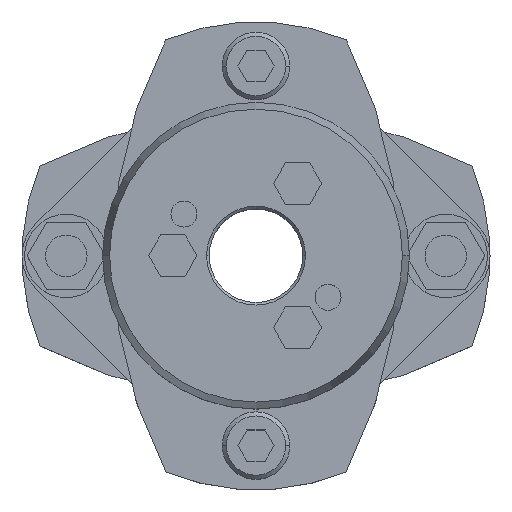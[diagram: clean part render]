
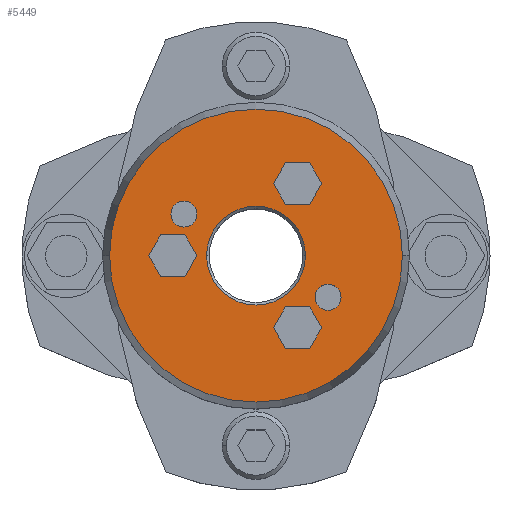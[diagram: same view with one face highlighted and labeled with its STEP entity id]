
A CAD part, top view. The second image highlights one B-rep face of the part: STEP entity #5449.
In plain terms, the highlighted planar face has unit normal (0, 0, 1).
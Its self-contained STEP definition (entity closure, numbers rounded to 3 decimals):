
#857=CARTESIAN_POINT('',(-9.5,0.,39.25));
#858=VERTEX_POINT('',#857);
#874=CARTESIAN_POINT('',(9.5,0.,39.25));
#875=VERTEX_POINT('',#874);
#882=CARTESIAN_POINT('',(0.,0.,39.25));
#883=DIRECTION('',(0.0,0.0,1.0));
#884=DIRECTION('',(-1.0,0.0,0.0));
#885=AXIS2_PLACEMENT_3D('',#882,#883,#884);
#886=CIRCLE('',#885,9.5);
#887=EDGE_CURVE('',#875,#858,#886,.T.);
#1045=CARTESIAN_POINT('',(28.16,0.,39.25));
#1046=VERTEX_POINT('',#1045);
#1053=CARTESIAN_POINT('',(-28.16,0.,39.25));
#1054=VERTEX_POINT('',#1053);
#1055=CARTESIAN_POINT('',(0.,0.,39.25));
#1056=DIRECTION('',(0.0,0.0,-1.0));
#1057=DIRECTION('',(1.0,0.0,0.0));
#1058=AXIS2_PLACEMENT_3D('',#1055,#1056,#1057);
#1059=CIRCLE('',#1058,28.16);
#1060=EDGE_CURVE('',#1046,#1054,#1059,.T.);
#1303=CARTESIAN_POINT('',(-16.356,8.,39.25));
#1304=VERTEX_POINT('',#1303);
#1320=CARTESIAN_POINT('',(-11.356,8.,39.25));
#1321=VERTEX_POINT('',#1320);
#1328=CARTESIAN_POINT('',(-13.856,8.,39.25));
#1329=DIRECTION('',(0.0,0.0,-1.0));
#1330=DIRECTION('',(-1.0,0.0,0.0));
#1331=AXIS2_PLACEMENT_3D('',#1328,#1329,#1330);
#1332=CIRCLE('',#1331,2.5);
#1333=EDGE_CURVE('',#1304,#1321,#1332,.T.);
#1345=CARTESIAN_POINT('',(11.356,-8.,39.25));
#1346=VERTEX_POINT('',#1345);
#1362=CARTESIAN_POINT('',(16.356,-8.,39.25));
#1363=VERTEX_POINT('',#1362);
#1370=CARTESIAN_POINT('',(13.856,-8.,39.25));
#1371=DIRECTION('',(0.0,0.0,-1.0));
#1372=DIRECTION('',(-1.0,0.0,0.0));
#1373=AXIS2_PLACEMENT_3D('',#1370,#1371,#1372);
#1374=CIRCLE('',#1373,2.5);
#1375=EDGE_CURVE('',#1346,#1363,#1374,.T.);
#3965=CARTESIAN_POINT('',(3.381,13.856,39.25));
#3966=VERTEX_POINT('',#3965);
#3973=CARTESIAN_POINT('',(5.691,9.856,39.25));
#3974=VERTEX_POINT('',#3973);
#3975=CARTESIAN_POINT('',(5.691,9.856,39.25));
#3976=DIRECTION('',(-0.5,0.866,0.0));
#3977=VECTOR('',#3976,4.619);
#3978=LINE('',#3975,#3977);
#3979=EDGE_CURVE('',#3974,#3966,#3978,.T.);
#4003=CARTESIAN_POINT('',(5.691,17.856,39.25));
#4004=VERTEX_POINT('',#4003);
#4011=CARTESIAN_POINT('',(3.381,13.856,39.25));
#4012=DIRECTION('',(0.5,0.866,0.0));
#4013=VECTOR('',#4012,4.619);
#4014=LINE('',#4011,#4013);
#4015=EDGE_CURVE('',#3966,#4004,#4014,.T.);
#4034=CARTESIAN_POINT('',(10.309,17.856,39.25));
#4035=VERTEX_POINT('',#4034);
#4042=CARTESIAN_POINT('',(5.691,17.856,39.25));
#4043=DIRECTION('',(1.0,0.0,0.0));
#4044=VECTOR('',#4043,4.619);
#4045=LINE('',#4042,#4044);
#4046=EDGE_CURVE('',#4004,#4035,#4045,.T.);
#4065=CARTESIAN_POINT('',(12.619,13.856,39.25));
#4066=VERTEX_POINT('',#4065);
#4073=CARTESIAN_POINT('',(10.309,17.856,39.25));
#4074=DIRECTION('',(0.5,-0.866,0.0));
#4075=VECTOR('',#4074,4.619);
#4076=LINE('',#4073,#4075);
#4077=EDGE_CURVE('',#4035,#4066,#4076,.T.);
#4096=CARTESIAN_POINT('',(10.309,9.856,39.25));
#4097=VERTEX_POINT('',#4096);
#4104=CARTESIAN_POINT('',(12.619,13.856,39.25));
#4105=DIRECTION('',(-0.5,-0.866,0.0));
#4106=VECTOR('',#4105,4.619);
#4107=LINE('',#4104,#4106);
#4108=EDGE_CURVE('',#4066,#4097,#4107,.T.);
#4126=CARTESIAN_POINT('',(10.309,9.856,39.25));
#4127=DIRECTION('',(-1.0,0.0,0.0));
#4128=VECTOR('',#4127,4.619);
#4129=LINE('',#4126,#4128);
#4130=EDGE_CURVE('',#4097,#3974,#4129,.T.);
#4165=CARTESIAN_POINT('',(-20.619,0.,39.25));
#4166=VERTEX_POINT('',#4165);
#4173=CARTESIAN_POINT('',(-18.309,-4.,39.25));
#4174=VERTEX_POINT('',#4173);
#4175=CARTESIAN_POINT('',(-18.309,-4.,39.25));
#4176=DIRECTION('',(-0.5,0.866,0.0));
#4177=VECTOR('',#4176,4.619);
#4178=LINE('',#4175,#4177);
#4179=EDGE_CURVE('',#4174,#4166,#4178,.T.);
#4203=CARTESIAN_POINT('',(-18.309,4.,39.25));
#4204=VERTEX_POINT('',#4203);
#4211=CARTESIAN_POINT('',(-20.619,0.,39.25));
#4212=DIRECTION('',(0.5,0.866,0.0));
#4213=VECTOR('',#4212,4.619);
#4214=LINE('',#4211,#4213);
#4215=EDGE_CURVE('',#4166,#4204,#4214,.T.);
#4234=CARTESIAN_POINT('',(-13.691,4.,39.25));
#4235=VERTEX_POINT('',#4234);
#4242=CARTESIAN_POINT('',(-18.309,4.,39.25));
#4243=DIRECTION('',(1.0,0.0,0.0));
#4244=VECTOR('',#4243,4.619);
#4245=LINE('',#4242,#4244);
#4246=EDGE_CURVE('',#4204,#4235,#4245,.T.);
#4265=CARTESIAN_POINT('',(-11.381,0.,39.25));
#4266=VERTEX_POINT('',#4265);
#4273=CARTESIAN_POINT('',(-13.691,4.,39.25));
#4274=DIRECTION('',(0.5,-0.866,0.0));
#4275=VECTOR('',#4274,4.619);
#4276=LINE('',#4273,#4275);
#4277=EDGE_CURVE('',#4235,#4266,#4276,.T.);
#4296=CARTESIAN_POINT('',(-13.691,-4.,39.25));
#4297=VERTEX_POINT('',#4296);
#4304=CARTESIAN_POINT('',(-11.381,0.,39.25));
#4305=DIRECTION('',(-0.5,-0.866,0.0));
#4306=VECTOR('',#4305,4.619);
#4307=LINE('',#4304,#4306);
#4308=EDGE_CURVE('',#4266,#4297,#4307,.T.);
#4326=CARTESIAN_POINT('',(-13.691,-4.,39.25));
#4327=DIRECTION('',(-1.0,0.0,0.0));
#4328=VECTOR('',#4327,4.619);
#4329=LINE('',#4326,#4328);
#4330=EDGE_CURVE('',#4297,#4174,#4329,.T.);
#4365=CARTESIAN_POINT('',(3.381,-13.856,39.25));
#4366=VERTEX_POINT('',#4365);
#4373=CARTESIAN_POINT('',(5.691,-17.856,39.25));
#4374=VERTEX_POINT('',#4373);
#4375=CARTESIAN_POINT('',(5.691,-17.856,39.25));
#4376=DIRECTION('',(-0.5,0.866,0.0));
#4377=VECTOR('',#4376,4.619);
#4378=LINE('',#4375,#4377);
#4379=EDGE_CURVE('',#4374,#4366,#4378,.T.);
#4403=CARTESIAN_POINT('',(5.691,-9.856,39.25));
#4404=VERTEX_POINT('',#4403);
#4411=CARTESIAN_POINT('',(3.381,-13.856,39.25));
#4412=DIRECTION('',(0.5,0.866,0.0));
#4413=VECTOR('',#4412,4.619);
#4414=LINE('',#4411,#4413);
#4415=EDGE_CURVE('',#4366,#4404,#4414,.T.);
#4434=CARTESIAN_POINT('',(10.309,-9.856,39.25));
#4435=VERTEX_POINT('',#4434);
#4442=CARTESIAN_POINT('',(5.691,-9.856,39.25));
#4443=DIRECTION('',(1.0,0.0,0.0));
#4444=VECTOR('',#4443,4.619);
#4445=LINE('',#4442,#4444);
#4446=EDGE_CURVE('',#4404,#4435,#4445,.T.);
#4465=CARTESIAN_POINT('',(12.619,-13.856,39.25));
#4466=VERTEX_POINT('',#4465);
#4473=CARTESIAN_POINT('',(10.309,-9.856,39.25));
#4474=DIRECTION('',(0.5,-0.866,0.0));
#4475=VECTOR('',#4474,4.619);
#4476=LINE('',#4473,#4475);
#4477=EDGE_CURVE('',#4435,#4466,#4476,.T.);
#4496=CARTESIAN_POINT('',(10.309,-17.856,39.25));
#4497=VERTEX_POINT('',#4496);
#4504=CARTESIAN_POINT('',(12.619,-13.856,39.25));
#4505=DIRECTION('',(-0.5,-0.866,0.0));
#4506=VECTOR('',#4505,4.619);
#4507=LINE('',#4504,#4506);
#4508=EDGE_CURVE('',#4466,#4497,#4507,.T.);
#4526=CARTESIAN_POINT('',(10.309,-17.856,39.25));
#4527=DIRECTION('',(-1.0,0.0,0.0));
#4528=VECTOR('',#4527,4.619);
#4529=LINE('',#4526,#4528);
#4530=EDGE_CURVE('',#4497,#4374,#4529,.T.);
#4556=CARTESIAN_POINT('',(13.856,-8.,39.25));
#4557=DIRECTION('',(0.0,0.0,-1.0));
#4558=DIRECTION('',(-1.0,0.0,0.0));
#4559=AXIS2_PLACEMENT_3D('',#4556,#4557,#4558);
#4560=CIRCLE('',#4559,2.5);
#4561=EDGE_CURVE('',#1363,#1346,#4560,.T.);
#4590=CARTESIAN_POINT('',(-13.856,8.,39.25));
#4591=DIRECTION('',(0.0,0.0,-1.0));
#4592=DIRECTION('',(-1.0,0.0,0.0));
#4593=AXIS2_PLACEMENT_3D('',#4590,#4591,#4592);
#4594=CIRCLE('',#4593,2.5);
#4595=EDGE_CURVE('',#1321,#1304,#4594,.T.);
#5388=CARTESIAN_POINT('',(0.,0.,39.25));
#5389=DIRECTION('',(0.0,0.0,-1.0));
#5390=DIRECTION('',(1.0,0.0,0.0));
#5391=AXIS2_PLACEMENT_3D('',#5388,#5389,#5390);
#5392=CIRCLE('',#5391,28.16);
#5393=EDGE_CURVE('',#1054,#1046,#5392,.T.);
#5398=CARTESIAN_POINT('',(-2.682,0.,39.25));
#5399=DIRECTION('',(0.0,0.0,1.0));
#5400=DIRECTION('',(-1.0,0.0,0.0));
#5401=AXIS2_PLACEMENT_3D('',#5398,#5399,#5400);
#5402=PLANE('',#5401);
#5403=ORIENTED_EDGE('',*,*,#5393,.F.);
#5404=ORIENTED_EDGE('',*,*,#1060,.F.);
#5405=EDGE_LOOP('',(#5403,#5404));
#5406=FACE_OUTER_BOUND('',#5405,.T.);
#5407=ORIENTED_EDGE('',*,*,#3979,.T.);
#5408=ORIENTED_EDGE('',*,*,#4015,.T.);
#5409=ORIENTED_EDGE('',*,*,#4046,.T.);
#5410=ORIENTED_EDGE('',*,*,#4077,.T.);
#5411=ORIENTED_EDGE('',*,*,#4108,.T.);
#5412=ORIENTED_EDGE('',*,*,#4130,.T.);
#5413=EDGE_LOOP('',(#5407,#5408,#5409,#5410,#5411,#5412));
#5414=FACE_BOUND('',#5413,.T.);
#5415=ORIENTED_EDGE('',*,*,#4179,.T.);
#5416=ORIENTED_EDGE('',*,*,#4215,.T.);
#5417=ORIENTED_EDGE('',*,*,#4246,.T.);
#5418=ORIENTED_EDGE('',*,*,#4277,.T.);
#5419=ORIENTED_EDGE('',*,*,#4308,.T.);
#5420=ORIENTED_EDGE('',*,*,#4330,.T.);
#5421=EDGE_LOOP('',(#5415,#5416,#5417,#5418,#5419,#5420));
#5422=FACE_BOUND('',#5421,.T.);
#5423=ORIENTED_EDGE('',*,*,#4379,.T.);
#5424=ORIENTED_EDGE('',*,*,#4415,.T.);
#5425=ORIENTED_EDGE('',*,*,#4446,.T.);
#5426=ORIENTED_EDGE('',*,*,#4477,.T.);
#5427=ORIENTED_EDGE('',*,*,#4508,.T.);
#5428=ORIENTED_EDGE('',*,*,#4530,.T.);
#5429=EDGE_LOOP('',(#5423,#5424,#5425,#5426,#5427,#5428));
#5430=FACE_BOUND('',#5429,.T.);
#5431=ORIENTED_EDGE('',*,*,#1375,.T.);
#5432=ORIENTED_EDGE('',*,*,#4561,.T.);
#5433=EDGE_LOOP('',(#5431,#5432));
#5434=FACE_BOUND('',#5433,.T.);
#5435=ORIENTED_EDGE('',*,*,#1333,.T.);
#5436=ORIENTED_EDGE('',*,*,#4595,.T.);
#5437=EDGE_LOOP('',(#5435,#5436));
#5438=FACE_BOUND('',#5437,.T.);
#5439=ORIENTED_EDGE('',*,*,#887,.F.);
#5440=CARTESIAN_POINT('',(0.,0.,39.25));
#5441=DIRECTION('',(0.0,0.0,1.0));
#5442=DIRECTION('',(-1.0,0.0,0.0));
#5443=AXIS2_PLACEMENT_3D('',#5440,#5441,#5442);
#5444=CIRCLE('',#5443,9.5);
#5445=EDGE_CURVE('',#858,#875,#5444,.T.);
#5446=ORIENTED_EDGE('',*,*,#5445,.F.);
#5447=EDGE_LOOP('',(#5439,#5446));
#5448=FACE_BOUND('',#5447,.T.);
#5449=ADVANCED_FACE('',(#5406,#5414,#5422,#5430,#5434,#5438,#5448),#5402,.T.);
